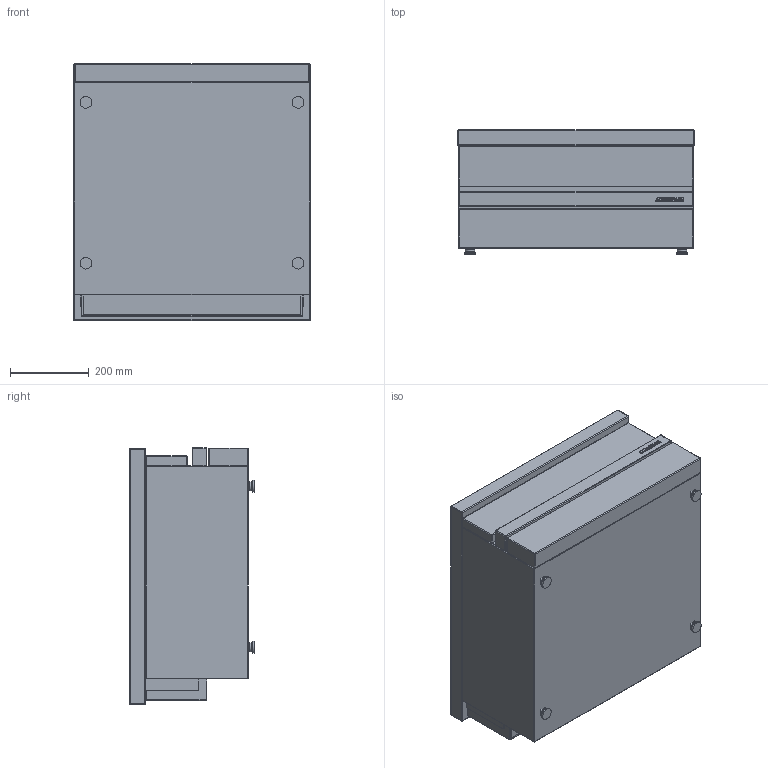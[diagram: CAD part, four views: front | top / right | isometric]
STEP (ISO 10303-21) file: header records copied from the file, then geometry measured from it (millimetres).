
FILE_DESCRIPTION((''),'2;1');
FILE_NAME('CSA600P_EXPORT_STEP_ASM','2017-11-22T',('r.avril'),(''),'PRO/ENGINEER BY PARAMETRIC TECHNOLOGY CORPORATION, 2014200','PRO/ENGINEER BY PARAMETRIC TECHNOLOGY CORPORATION, 2014200','');
FILE_SCHEMA(('AP203_CONFIGURATION_CONTROLLED_3D_DESIGN_OF_MECHANICAL_PARTS_AND_ASSEMBLIES_MIM_LF { 1 0 10303 403 2 1 2 }'));
Length unit declared in the file: millimetre
Products named in the file (3): SNACKS_AMB_600_EXPORT_STEP; TABLE_600_NEUTRE; CSA600P_EXPORT_STEP_ASM
Assembly tree (2 placements, depth 2):
  CSA600P_EXPORT_STEP_ASM
    SNACKS_AMB_600_EXPORT_STEP
    TABLE_600_NEUTRE
Bounding box: 600 x 315 x 652.1 mm (x, y, z)
Volume: 48963795.5 mm3; surface area: 3035859.4 mm2
Topology: 5 solids, 23 shells, 249 faces, 1208 edges, 1235 vertices
Faces by surface type: plane 118, cylinder 87, sphere 36, cone 8
Entity records: 14326 total; most frequent: CARTESIAN_POINT 4162, DIRECTION 1593, ORIENTED_EDGE 1483, EDGE_CURVE 966, VERTEX_POINT 751, VECTOR 586, LINE 586, AXIS2_PLACEMENT_3D 499
